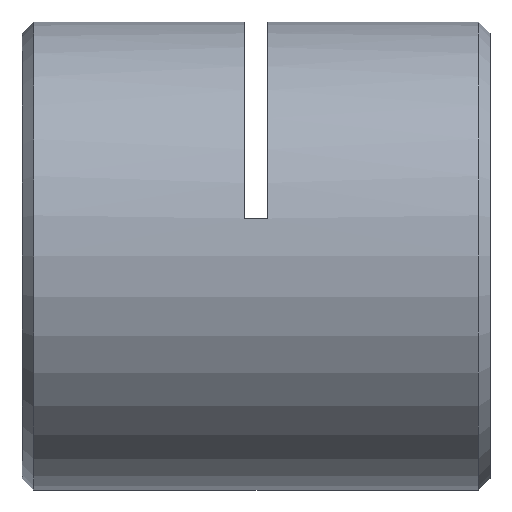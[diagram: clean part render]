
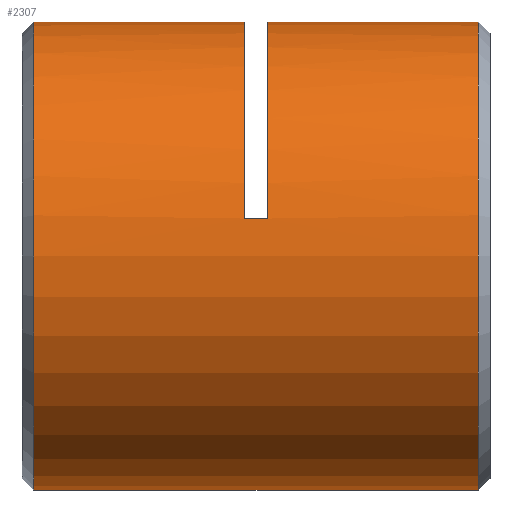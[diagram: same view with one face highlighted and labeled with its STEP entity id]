
A CAD part, left-side view. The second image highlights one B-rep face of the part: STEP entity #2307.
In plain terms, the highlighted cylindrical face has radius 8 mm (diameter 16 mm), a partial arc.
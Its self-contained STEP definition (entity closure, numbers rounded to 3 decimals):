
#30 = DIRECTION ( 'NONE',  ( 0., 1., 0. ) ) ;
#51 = CARTESIAN_POINT ( 'NONE',  ( 0., 15.85, -8. ) ) ;
#220 = CARTESIAN_POINT ( 'NONE',  ( 0., 0.25, 8. ) ) ;
#232 = CARTESIAN_POINT ( 'NONE',  ( 0., 0.65, -8. ) ) ;
#339 = CARTESIAN_POINT ( 'NONE',  ( -7.897, 8.65, 1.28 ) ) ;
#385 = AXIS2_PLACEMENT_3D ( 'NONE', #2705, #2059, #3617 ) ;
#468 = ORIENTED_EDGE ( 'NONE', *, *, #3865, .T. ) ;
#510 = VERTEX_POINT ( 'NONE', #2074 ) ;
#516 = EDGE_CURVE ( 'NONE', #520, #1846, #2345, .T. ) ;
#520 = VERTEX_POINT ( 'NONE', #232 ) ;
#536 = EDGE_CURVE ( 'NONE', #1366, #1802, #1169, .T. ) ;
#580 = CARTESIAN_POINT ( 'NONE',  ( 0., 15.85, 0. ) ) ;
#773 = CARTESIAN_POINT ( 'NONE',  ( 0., 7.85, 0. ) ) ;
#846 = CARTESIAN_POINT ( 'NONE',  ( 0., 0.25, 8. ) ) ;
#874 = VECTOR ( 'NONE', #2745, 1000. ) ;
#884 = VECTOR ( 'NONE', #30, 1000. ) ;
#1066 = DIRECTION ( 'NONE',  ( 0., 1., 0. ) ) ;
#1169 = LINE ( 'NONE', #220, #884 ) ;
#1254 = CYLINDRICAL_SURFACE ( 'NONE', #1286, 8. ) ;
#1259 = CARTESIAN_POINT ( 'NONE',  ( -7.897, 7.85, 1.28 ) ) ;
#1286 = AXIS2_PLACEMENT_3D ( 'NONE', #3348, #1809, #2162 ) ;
#1305 = LINE ( 'NONE', #1513, #874 ) ;
#1366 = VERTEX_POINT ( 'NONE', #3629 ) ;
#1399 = CARTESIAN_POINT ( 'NONE',  ( 0., 8.65, 0. ) ) ;
#1444 = VERTEX_POINT ( 'NONE', #1259 ) ;
#1461 = DIRECTION ( 'NONE',  ( 0., -1., 0. ) ) ;
#1513 = CARTESIAN_POINT ( 'NONE',  ( 0., 0.25, -8. ) ) ;
#1635 = ORIENTED_EDGE ( 'NONE', *, *, #3830, .T. ) ;
#1685 = DIRECTION ( 'NONE',  ( 0., 0., 1. ) ) ;
#1738 = DIRECTION ( 'NONE',  ( 0., 0., 1. ) ) ;
#1775 = DIRECTION ( 'NONE',  ( 0., 0., -1. ) ) ;
#1802 = VERTEX_POINT ( 'NONE', #2153 ) ;
#1809 = DIRECTION ( 'NONE',  ( 0., 1., 0. ) ) ;
#1846 = VERTEX_POINT ( 'NONE', #2841 ) ;
#1874 = EDGE_LOOP ( 'NONE', ( #2149, #2710, #468, #3728, #1635, #3066, #3466, #2251 ) ) ;
#2036 = DIRECTION ( 'NONE',  ( 0., 1., 0. ) ) ;
#2050 = AXIS2_PLACEMENT_3D ( 'NONE', #1399, #3555, #1738 ) ;
#2059 = DIRECTION ( 'NONE',  ( 0., 1., 0. ) ) ;
#2074 = CARTESIAN_POINT ( 'NONE',  ( 0., 7.85, 8. ) ) ;
#2149 = ORIENTED_EDGE ( 'NONE', *, *, #2185, .F. ) ;
#2153 = CARTESIAN_POINT ( 'NONE',  ( 0., 15.85, 8. ) ) ;
#2162 = DIRECTION ( 'NONE',  ( 0., 0., 1. ) ) ;
#2174 = EDGE_CURVE ( 'NONE', #1802, #2339, #2226, .T. ) ;
#2185 = EDGE_CURVE ( 'NONE', #520, #2339, #1305, .T. ) ;
#2226 = CIRCLE ( 'NONE', #3831, 8. ) ;
#2251 = ORIENTED_EDGE ( 'NONE', *, *, #2174, .T. ) ;
#2304 = VERTEX_POINT ( 'NONE', #339 ) ;
#2307 = ADVANCED_FACE ( 'NONE', ( #3523 ), #1254, .T. ) ;
#2339 = VERTEX_POINT ( 'NONE', #51 ) ;
#2345 = CIRCLE ( 'NONE', #385, 8. ) ;
#2691 = VECTOR ( 'NONE', #3612, 1000. ) ;
#2705 = CARTESIAN_POINT ( 'NONE',  ( 0., 0.65, 0. ) ) ;
#2710 = ORIENTED_EDGE ( 'NONE', *, *, #516, .T. ) ;
#2745 = DIRECTION ( 'NONE',  ( 0., 1., 0. ) ) ;
#2841 = CARTESIAN_POINT ( 'NONE',  ( 0., 0.65, 8. ) ) ;
#3066 = ORIENTED_EDGE ( 'NONE', *, *, #3635, .T. ) ;
#3210 = CARTESIAN_POINT ( 'NONE',  ( -7.897, 8.25, 1.28 ) ) ;
#3305 = AXIS2_PLACEMENT_3D ( 'NONE', #773, #1066, #1685 ) ;
#3348 = CARTESIAN_POINT ( 'NONE',  ( 0., 0.25, 0. ) ) ;
#3372 = LINE ( 'NONE', #3210, #3885 ) ;
#3466 = ORIENTED_EDGE ( 'NONE', *, *, #536, .T. ) ;
#3489 = EDGE_CURVE ( 'NONE', #1444, #510, #3798, .T. ) ;
#3523 = FACE_OUTER_BOUND ( 'NONE', #1874, .T. ) ;
#3555 = DIRECTION ( 'NONE',  ( 0., 1., 0. ) ) ;
#3612 = DIRECTION ( 'NONE',  ( 0., 1., 0. ) ) ;
#3617 = DIRECTION ( 'NONE',  ( 0., 0., 1. ) ) ;
#3629 = CARTESIAN_POINT ( 'NONE',  ( 0., 8.65, 8. ) ) ;
#3635 = EDGE_CURVE ( 'NONE', #2304, #1366, #3889, .T. ) ;
#3728 = ORIENTED_EDGE ( 'NONE', *, *, #3489, .F. ) ;
#3798 = CIRCLE ( 'NONE', #3305, 8. ) ;
#3830 = EDGE_CURVE ( 'NONE', #1444, #2304, #3372, .T. ) ;
#3831 = AXIS2_PLACEMENT_3D ( 'NONE', #580, #1461, #1775 ) ;
#3865 = EDGE_CURVE ( 'NONE', #1846, #510, #3930, .T. ) ;
#3885 = VECTOR ( 'NONE', #2036, 1000. ) ;
#3889 = CIRCLE ( 'NONE', #2050, 8. ) ;
#3930 = LINE ( 'NONE', #846, #2691 ) ;
